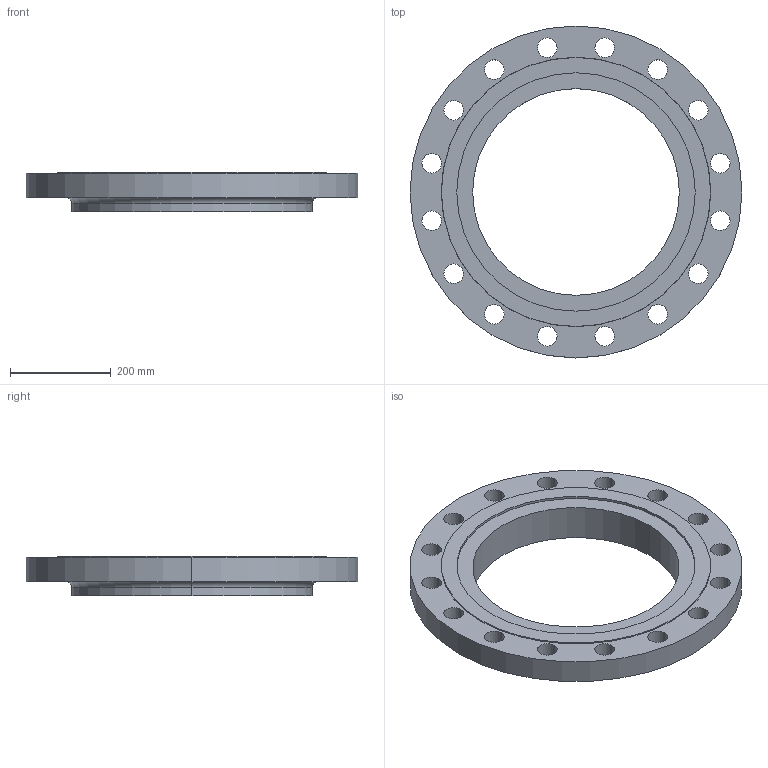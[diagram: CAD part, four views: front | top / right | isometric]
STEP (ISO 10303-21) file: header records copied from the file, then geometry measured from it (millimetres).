
FILE_DESCRIPTION (( 'STEP AP214' ), '1' );
FILE_NAME ('PN40 DN400 Type 12 - Type F Face.STEP', '2019-01-05T23:17:08', ( '' ), ( '' ), 'SwSTEP 2.0', 'SolidWorks 2019', '' );
FILE_SCHEMA (( 'AUTOMOTIVE_DESIGN' ));
Length unit declared in the file: millimetre
Products named in the file (1): PN40 DN400 Type 12 - Type F Face
Bounding box: 660 x 660 x 78 mm (x, y, z)
Volume: 10458805.3 mm3; surface area: 713196.2 mm2
Topology: 1 solids, 1 shells, 49 faces, 130 edges, 86 vertices
Faces by surface type: cylinder 40, plane 5, torus 2, cone 2
Entity records: 1678 total; most frequent: DIRECTION 318, CARTESIAN_POINT 266, ORIENTED_EDGE 260, AXIS2_PLACEMENT_3D 138, EDGE_CURVE 130, CIRCLE 88, VERTEX_POINT 86, EDGE_LOOP 86
